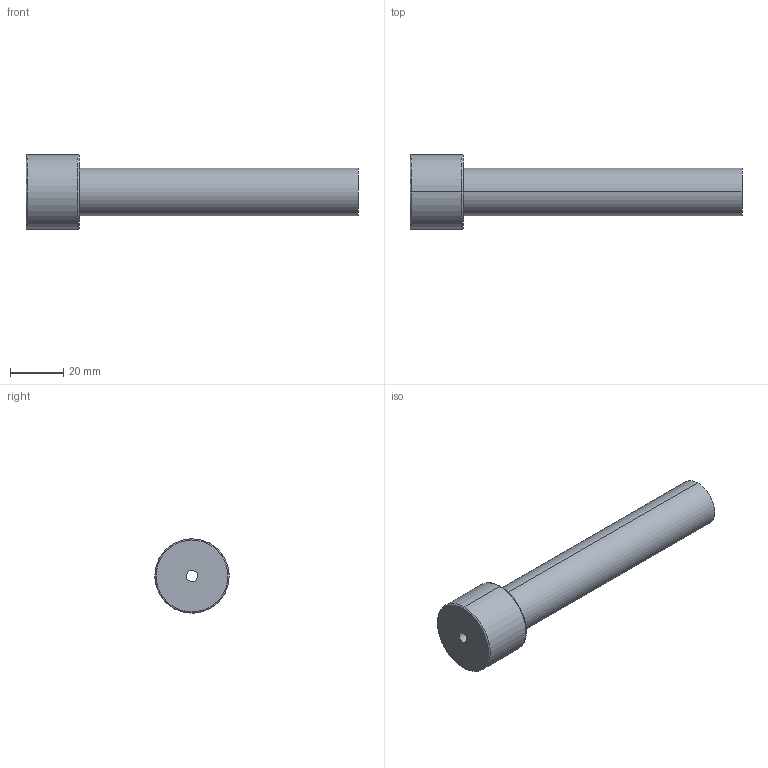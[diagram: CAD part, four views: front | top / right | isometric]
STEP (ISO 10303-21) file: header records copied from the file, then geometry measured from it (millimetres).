
FILE_DESCRIPTION(('CATIA V5 STEP Exchange'),'2;1');
FILE_NAME('C:\Users\Utente\Desktop\IO LAVORO\3D X SITO CF\X SITO\PLASTICA\3D files 367\367F-18X125.stp','2021-03-24T15:59:55+00:00',('none'),('none'),'CATIA Version 5 Release 20 GA (IN-10)','CATIA V5 STEP AP203','none');
FILE_SCHEMA(('CONFIG_CONTROL_DESIGN'));
Length unit declared in the file: millimetre
Products named in the file (1): 367F-18X125
Bounding box: 125 x 28 x 28 mm (x, y, z)
Volume: 33043.6 mm3; surface area: 11758.5 mm2
Topology: 1 solids, 1 shells, 13 faces, 42 edges, 32 vertices
Faces by surface type: torus 4, cylinder 4, plane 3, cone 2
Entity records: 614 total; most frequent: CARTESIAN_POINT 200, ORIENTED_EDGE 84, DIRECTION 60, AXIS2_PLACEMENT_3D 42, EDGE_CURVE 42, VERTEX_POINT 32, CIRCLE 28, EDGE_LOOP 16
